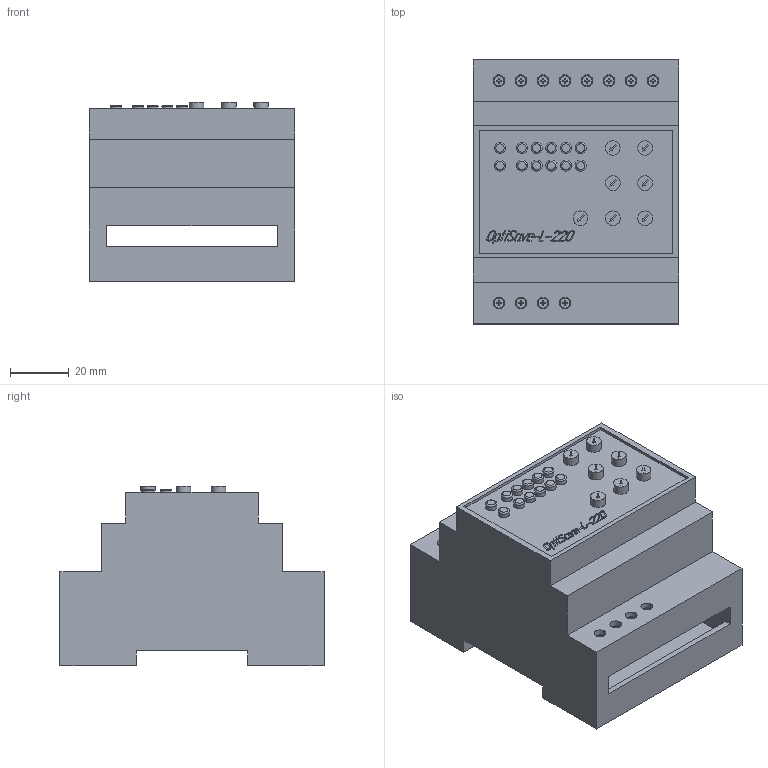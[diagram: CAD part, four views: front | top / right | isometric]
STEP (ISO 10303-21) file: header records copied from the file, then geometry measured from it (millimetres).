
FILE_DESCRIPTION(('STEP AP203'), '1');
FILE_NAME('OptiSave-L-220', '', ('UNSPECIFIED'), ('UNSPECIFIED'), 'ASCON STEP Converter 1.3', 'ASCON Math Kernel', '');
FILE_SCHEMA(('CONFIG_CONTROL_DESIGN'));
Length unit declared in the file: millimetre
Bounding box: 70 x 90 x 61 mm (x, y, z)
Volume: 52325.5 mm3; surface area: 56412.2 mm2
Topology: 13 solids, 13 shells, 711 faces, 1896 edges, 1260 vertices
Faces by surface type: plane 508, extrusion 144, cylinder 47, torus 12
Full cylindrical faces by diameter (mm): 3.42 x12, 3.8 x12, 4 x12, 5 x7
Entity records: 27886 total; most frequent: CARTESIAN_POINT 4911, ORIENTED_EDGE 3682, DIRECTION 2939, EDGE_CURVE 1841, VECTOR 1591, LINE 1447, VERTEX_POINT 1260, EDGE_LOOP 865
